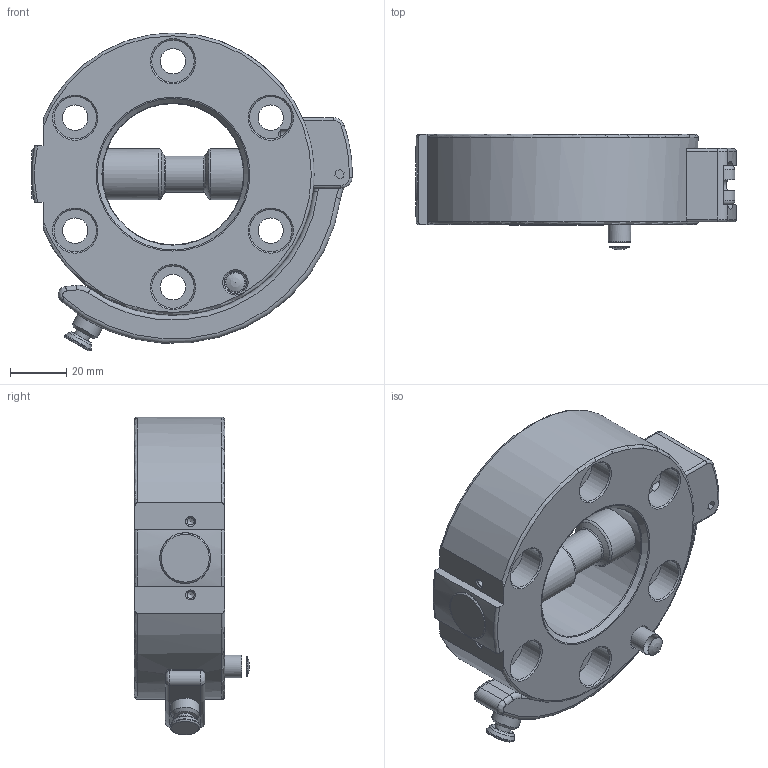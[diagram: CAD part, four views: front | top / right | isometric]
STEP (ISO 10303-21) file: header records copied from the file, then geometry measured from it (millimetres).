
FILE_DESCRIPTION(/* description */ (''),/* implementation_level */ '2;1');
FILE_NAME(/* name */ '\\dc01\daten\CAD\Standard\Daten\3D-Datenbank\Webseite 2020\SHW\SHW100\G-SHW100-2OE.stp',/* time_stamp */ '2020-05-26T14:39:41+02:00',/* author */ ('ysplieth'),/* organization */ (''),/* preprocessor_version */ 'ST-DEVELOPER v17',/* originating_system */ 'Autodesk Inventor 2018',/* authorisation */ '');
FILE_SCHEMA (('AUTOMOTIVE_DESIGN { 1 0 10303 214 3 1 1 }'));
Length unit declared in the file: millimetre
Products named in the file (1): G-SHW100-2OE
Bounding box: 113.49 x 40.8 x 112.64 mm (x, y, z)
Volume: 196664.1 mm3; surface area: 48165.1 mm2
Topology: 1 solids, 5 shells, 282 faces, 817 edges, 546 vertices
Faces by surface type: plane 98, cylinder 87, torus 47, cone 43, sphere 4, bspline 3
Full cylindrical faces by diameter (mm): 2.459 x2, 3.242 x2, 4 x9, 4.3 x2, 4.917 x2, 5.58 x1, 6.2 x1, 6.8 x1, 7 x3, 7.8 x1, 8 x4, 9 x6, 10.1 x2, 10.6 x1, 11.8 x1, 12.8 x1, 15 x6, 18 x4, 50 x1
Entity records: 10539 total; most frequent: CARTESIAN_POINT 2464, DIRECTION 1714, ORIENTED_EDGE 1618, EDGE_CURVE 809, AXIS2_PLACEMENT_3D 721, VERTEX_POINT 547, CIRCLE 439, EDGE_LOOP 336
